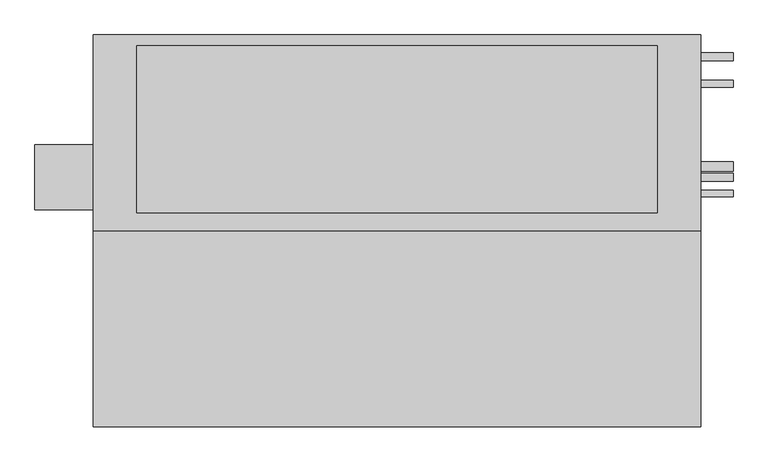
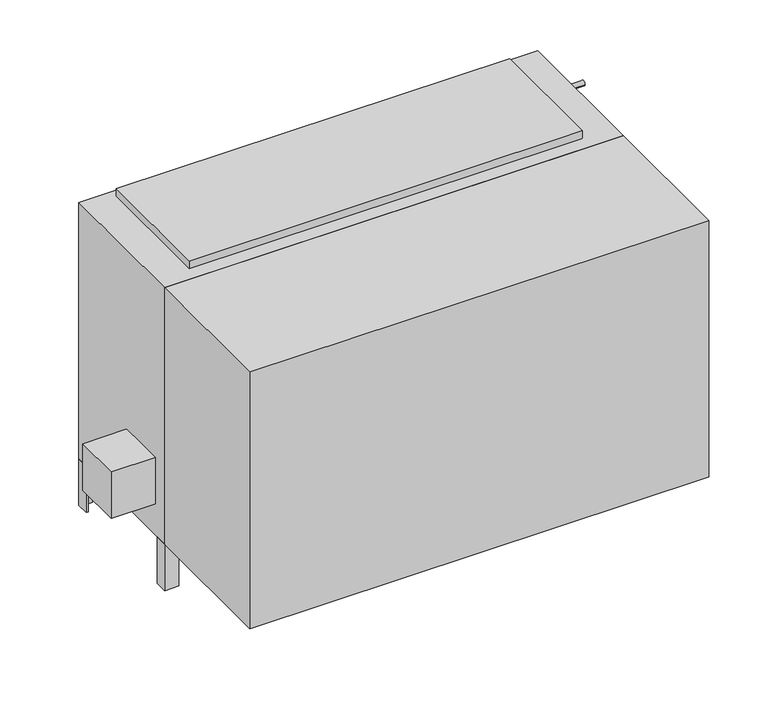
"""IFC4 building model written with IfcOpenShell, lengths in millimetres: proxy geometry, Concealed_High_Capacity_Vertical_Fan_Coil_Unit_-_VEY_-_IEC_-_4-Pipe_RH_2022 : Size 20 - 277v/60Hz/1Ph - 4/2 Coil."""

from ifc_helpers import new_model, si_unit, point, frame, frame_2d, origin, origin_with_axes, place, context, project, spatial, polyline, circle_curve, trimmed, segment, composite_curve, outline, extrude, source, transform, mapped, element, save


def mechanical_equipment_9b5daf84(model_context):
    return source(origin(), model_context, "Body", "SweptSolid", [
        extrude(outline(polyline([(698.9230703, 747.7868862), (688.975, 779.9602728), (831.1459244, 779.9602728), (808.1239183, 747.7868862), (698.9230703, 747.7868862)])), frame((0.0, -471.4875, 0.0), z_axis=(0.0, 1.0, 0.0), x_axis=(0.0, 0.0, 1.0)), (0.0, 0.0, 1.0), 3.175),
        extrude(outline(polyline([(777.9223557, 786.7186058), (774.7199632, 812.8), (803.9488042, 812.8), (812.0132193, 786.7186058), (777.9223557, 786.7186058)])), frame((0.0, -471.4875, 0.0), z_axis=(0.0, 1.0, 0.0), x_axis=(0.0, 0.0, 1.0)), (0.0, 0.0, 1.0), 3.175),
        extrude(outline(polyline([(726.0588288, 812.8), (722.3933279, 786.7186058), (688.975, 786.7186058), (697.6092372, 812.8), (726.0588288, 812.8)])), frame((0.0, -471.4875, 0.0), z_axis=(0.0, 1.0, 0.0), x_axis=(0.0, 0.0, 1.0)), (0.0, 0.0, 1.0), 3.175),
        extrude(outline(polyline([(765.3739903, 812.8), (767.6558166, 786.7186058), (731.7182681, 786.7186058), (734.4595331, 812.8), (765.3739903, 812.8)])), frame((0.0, -471.4875, 0.0), z_axis=(0.0, 1.0, 0.0), x_axis=(0.0, 0.0, 1.0)), (0.0, 0.0, 1.0), 3.175),
        extrude(outline(polyline([(863.6, -925.5125), (-558.8, -925.5125), (-558.8, -468.3125), (863.6, -468.3125), (863.6, -925.5125)])), origin_with_axes(), (0.0, 0.0, 1.0), 841.375),
        extrude(outline(polyline([(-695.325, -417.5125), (-695.325, -265.1125), (-558.8, -265.1125), (-558.8, -417.5125), (-695.325, -417.5125)])), frame((0.0, 0.0, 101.6), z_axis=(0.0, 0.0, 1.0), x_axis=(1.0, 0.0, 0.0)), (0.0, 0.0, 1.0), 152.4),
        extrude(outline(polyline([(863.6, -46.0375), (857.25, -46.0375), (857.25, -14.2875), (825.5, -14.2875), (825.5, -7.9375), (863.6, -7.9375), (863.6, -46.0375)])), frame((0.0, 0.0, -152.4), z_axis=(0.0, 0.0, 1.0), x_axis=(1.0, 0.0, 0.0)), (0.0, 0.0, 1.0), 152.4),
        extrude(outline(polyline([(-520.7, -7.9375), (-520.7, -14.2875), (-552.45, -14.2875), (-552.45, -46.0375), (-558.8, -46.0375), (-558.8, -7.9375), (-520.7, -7.9375)])), frame((0.0, 0.0, -152.4), z_axis=(0.0, 0.0, 1.0), x_axis=(1.0, 0.0, 0.0)), (0.0, 0.0, 1.0), 152.4),
        extrude(outline(polyline([(825.5, -468.3125), (825.5, -461.9625), (857.25, -461.9625), (857.25, -430.2125), (863.6, -430.2125), (863.6, -468.3125), (825.5, -468.3125)])), frame((0.0, 0.0, -152.4), z_axis=(0.0, 0.0, 1.0), x_axis=(1.0, 0.0, 0.0)), (0.0, 0.0, 1.0), 152.4),
        extrude(outline(polyline([(-558.8, -428.1199163), (-552.45, -428.1199163), (-552.45, -461.9625), (-515.3318533, -461.9625), (-515.3318533, -468.3125), (-558.8, -468.3125), (-558.8, -428.1199163)])), frame((0.0, 0.0, -152.4), z_axis=(0.0, 0.0, 1.0), x_axis=(1.0, 0.0, 0.0)), (0.0, 0.0, 1.0), 152.4),
        extrude(outline(polyline([(762.0, -33.3375), (762.0, -423.8625), (-457.2, -423.8625), (-457.2, -33.3375), (762.0, -33.3375)])), frame((0.0, 0.0, 841.375), z_axis=(0.0, 0.0, 1.0), x_axis=(1.0, 0.0, 0.0)), (0.0, 0.0, 1.0), 25.4),
        extrude(outline(polyline([(838.2, -471.4875), (-533.4, -471.4875), (-533.4, -468.3125), (838.2, -468.3125), (838.2, -471.4875)])), frame((0.0, 0.0, 50.8), z_axis=(0.0, 0.0, 1.0), x_axis=(1.0, 0.0, 0.0)), (0.0, 0.0, 1.0), 304.8),
        extrude(outline(composite_curve([segment(trimmed(circle_curve(frame_2d((-122.2375, 777.875)), 7.9375), [point((-114.3, 777.875))], [point((-130.175, 777.875))], False, "CARTESIAN"), True, "CONTINUOUS"), segment(trimmed(circle_curve(frame_2d((-122.2375, 777.875)), 7.9375), [point((-130.175, 777.875))], [point((-114.3, 777.875))], False, "CARTESIAN"), True, "CONTINUOUS")], self_intersect=False)), frame((863.6, 0.0, 0.0), z_axis=(1.0, 0.0, 0.0), x_axis=(0.0, 1.0, 0.0)), (0.0, 0.0, 1.0), 76.2),
        extrude(outline(composite_curve([segment(trimmed(circle_curve(frame_2d((-379.4125, 663.575)), 7.9375), [point((-371.475, 663.575))], [point((-387.35, 663.575))], False, "CARTESIAN"), True, "CONTINUOUS"), segment(trimmed(circle_curve(frame_2d((-379.4125, 663.575)), 7.9375), [point((-387.35, 663.575))], [point((-371.475, 663.575))], False, "CARTESIAN"), True, "CONTINUOUS")], self_intersect=False)), frame((863.6, 0.0, 0.0), z_axis=(1.0, 0.0, 0.0), x_axis=(0.0, 1.0, 0.0)), (0.0, 0.0, 1.0), 76.2),
        extrude(outline(composite_curve([segment(trimmed(circle_curve(frame_2d((-58.7375, 727.075)), 9.525), [point((-49.2125, 727.075))], [point((-68.2625, 727.075))], False, "CARTESIAN"), True, "CONTINUOUS"), segment(trimmed(circle_curve(frame_2d((-58.7375, 727.075)), 9.525), [point((-68.2625, 727.075))], [point((-49.2125, 727.075))], False, "CARTESIAN"), True, "CONTINUOUS")], self_intersect=False)), frame((863.6, 0.0, 0.0), z_axis=(1.0, 0.0, 0.0), x_axis=(0.0, 1.0, 0.0)), (0.0, 0.0, 1.0), 76.2),
        extrude(outline(composite_curve([segment(trimmed(circle_curve(frame_2d((-341.3125, 625.475)), 9.525), [point((-331.7875, 625.475))], [point((-350.8375, 625.475))], False, "CARTESIAN"), True, "CONTINUOUS"), segment(trimmed(circle_curve(frame_2d((-341.3125, 625.475)), 9.525), [point((-350.8375, 625.475))], [point((-331.7875, 625.475))], False, "CARTESIAN"), True, "CONTINUOUS")], self_intersect=False)), frame((863.6, 0.0, 0.0), z_axis=(1.0, 0.0, 0.0), x_axis=(0.0, 1.0, 0.0)), (0.0, 0.0, 1.0), 76.2),
        extrude(outline(composite_curve([segment(trimmed(circle_curve(frame_2d((-315.9125, 536.575)), 11.1125), [point((-304.8, 536.575))], [point((-327.025, 536.575))], False, "CARTESIAN"), True, "CONTINUOUS"), segment(trimmed(circle_curve(frame_2d((-315.9125, 536.575)), 11.1125), [point((-327.025, 536.575))], [point((-304.8, 536.575))], False, "CARTESIAN"), True, "CONTINUOUS")], self_intersect=False)), frame((863.6, 0.0, 0.0), z_axis=(1.0, 0.0, 0.0), x_axis=(0.0, 1.0, 0.0)), (0.0, 0.0, 1.0), 76.2),
        extrude(outline(polyline([(863.6, -7.9375), (863.6, -468.3125), (-558.8, -468.3125), (-558.8, -7.9375), (863.6, -7.9375)])), origin_with_axes(), (0.0, 0.0, 1.0), 841.375),
    ])


if __name__ == "__main__":
    model = new_model("IFC4")
    model_context = context("Model", 3, world=origin())
    ifc_project = project(units=[si_unit("LENGTHUNIT", "METRE", prefix="MILLI")], contexts=[model_context])
    site = spatial("IfcSite", under=ifc_project)
    building = spatial("IfcBuilding", under=site)
    placement = place(None, origin())
    mechanical_equipment_shape = mechanical_equipment_9b5daf84(model_context)
    element("IfcBuildingElementProxy", 1, Name="Concealed_High_Capacity_Vertical_Fan_Coil_Unit_-_VEY_-_IEC_-_4-Pipe_RH_2022 : Size 20 - 277v/60Hz/1Ph - 4/2 Coil", ObjectType="Concealed_High_Capacity_Vertical_Fan_Coil_Unit_-_VEY_-_IEC_-_4-Pipe_RH_2022 : Size 20 - 277v/60Hz/1Ph - 4/2 Coil", at=placement, inside=building, context=model_context, shape_type="MappedRepresentation", body=[
        mapped(mechanical_equipment_shape, transform((0.0, 0.0, 0.0), x_axis=(1.0, 0.0, 0.0), y_axis=(0.0, 1.0, 0.0), z_axis=(0.0, 0.0, 1.0))),
    ])
    save(model, "model.ifc")
